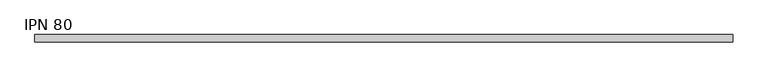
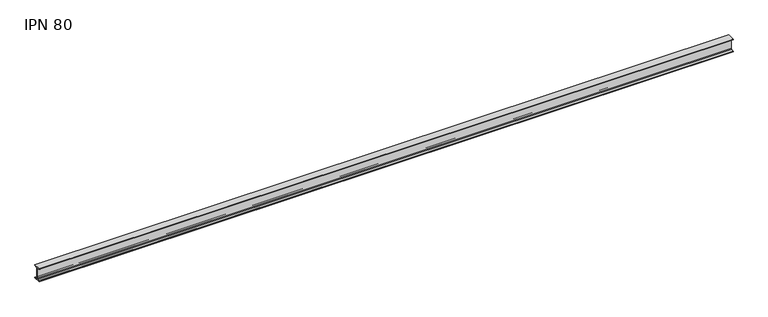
"""IFC4 building model written with IfcOpenShell, lengths in millimetres: beam geometry, IPN - Secciones en I con alas cónicas : IPN 80."""

from ifc_helpers import new_model, si_unit, point, frame, frame_2d, origin, place, context, project, spatial, polyline, circle_curve, trimmed, segment, composite_curve, outline, extrude, source, transform, mapped, element, save


def ipn_80_fb08bf40(model_context):
    return source(origin(), model_context, "Body", "SweptSolid", [
        extrude(outline(composite_curve([segment(polyline([(-21.0, 40.0), (21.0, 40.0), (21.0, 37.5704306)]), True, "CONTINUOUS"), segment(trimmed(circle_curve(frame_2d((18.7, 37.5704306)), 2.3), [point((21.0, 37.5704306))], [point((19.01889, 35.2926446))], False, "CARTESIAN"), True, "CONTINUOUS"), segment(polyline([(19.01889, 35.2926446), (5.3092734, 33.3732983)]), True, "CONTINUOUS"), segment(trimmed(circle_curve(frame_2d((5.85, 29.5109655)), 3.9), [point((5.3092734, 33.3732983))], [point((1.95, 29.5109655))], True, "CARTESIAN"), True, "CONTINUOUS"), segment(polyline([(1.95, 29.5109655), (1.95, -29.5109655)]), True, "CONTINUOUS"), segment(trimmed(circle_curve(frame_2d((5.85, -29.5109655)), 3.9), [point((1.95, -29.5109655))], [point((5.3092734, -33.3732983))], True, "CARTESIAN"), True, "CONTINUOUS"), segment(polyline([(5.3092734, -33.3732983), (19.01889, -35.2926446)]), True, "CONTINUOUS"), segment(trimmed(circle_curve(frame_2d((18.7, -37.5704306)), 2.3), [point((19.01889, -35.2926446))], [point((21.0, -37.5704306))], False, "CARTESIAN"), True, "CONTINUOUS"), segment(polyline([(21.0, -37.5704306), (21.0, -40.0), (-21.0, -40.0), (-21.0, -37.5704306)]), True, "CONTINUOUS"), segment(trimmed(circle_curve(frame_2d((-18.7, -37.5704306)), 2.3), [point((-21.0, -37.5704306))], [point((-19.01889, -35.2926446))], False, "CARTESIAN"), True, "CONTINUOUS"), segment(polyline([(-19.01889, -35.2926446), (-5.3092734, -33.3732983)]), True, "CONTINUOUS"), segment(trimmed(circle_curve(frame_2d((-5.85, -29.5109655)), 3.9), [point((-5.3092734, -33.3732983))], [point((-1.95, -29.5109655))], True, "CARTESIAN"), True, "CONTINUOUS"), segment(polyline([(-1.95, -29.5109655), (-1.95, 29.5109655)]), True, "CONTINUOUS"), segment(trimmed(circle_curve(frame_2d((-5.85, 29.5109655)), 3.9), [point((-1.95, 29.5109655))], [point((-5.3092734, 33.3732983))], True, "CARTESIAN"), True, "CONTINUOUS"), segment(polyline([(-5.3092734, 33.3732983), (-19.01889, 35.2926446)]), True, "CONTINUOUS"), segment(trimmed(circle_curve(frame_2d((-18.7, 37.5704306)), 2.3), [point((-19.01889, 35.2926446))], [point((-21.0, 37.5704306))], False, "CARTESIAN"), True, "CONTINUOUS"), segment(polyline([(-21.0, 37.5704306), (-21.0, 40.0)]), True, "CONTINUOUS")], self_intersect=False)), frame((-2043.85, 0.0, 0.0), z_axis=(1.0, 0.0, 0.0), x_axis=(0.0, 1.0, 0.0)), (0.0, 0.0, 1.0), 4060.85),
    ])


if __name__ == "__main__":
    model = new_model("IFC4")
    model_context = context("Model", 3, world=origin())
    ifc_project = project(units=[si_unit("LENGTHUNIT", "METRE", prefix="MILLI")], contexts=[model_context])
    site = spatial("IfcSite", under=ifc_project)
    building = spatial("IfcBuilding", under=site)
    placement = place(None, origin())
    ipn_80_shape = ipn_80_fb08bf40(model_context)
    element("IfcBeam", 1, ObjectType="IPN - Secciones en I con alas cónicas : IPN 80", at=placement, inside=building, context=model_context, shape_type="MappedRepresentation", body=[
        mapped(ipn_80_shape, transform((0.0, 0.0, 0.0), x_axis=(1.0, 0.0, 0.0), y_axis=(0.0, 1.0, 0.0), z_axis=(0.0, 0.0, 1.0))),
    ])
    save(model, "model.ifc")
